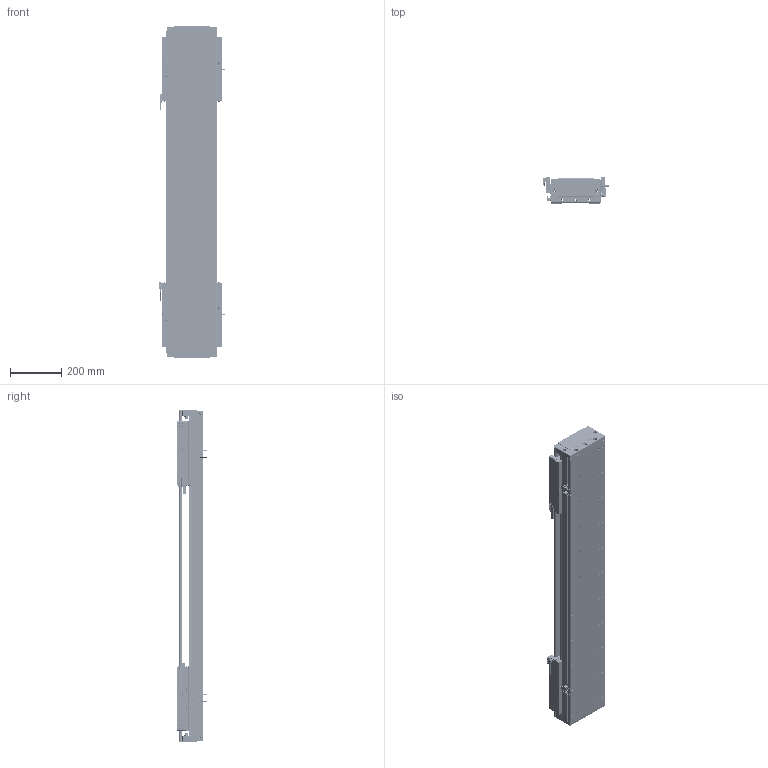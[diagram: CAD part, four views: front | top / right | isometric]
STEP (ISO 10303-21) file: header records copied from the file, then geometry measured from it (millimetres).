
FILE_DESCRIPTION (( 'STEP AP203' ), '1' );
FILE_NAME ('DA-C195-2-C3-T680-C010-0.2 眻盄萇儂.STEP', '2025-08-14T02:25:24', ( '' ), ( '' ), 'SwSTEP 2.0', 'SolidWorks 2019', '' );
FILE_SCHEMA (( 'CONFIG_CONTROL_DESIGN' ));
Length unit declared in the file: millimetre
Products named in the file (16): DKW-GYP-ZJ-00 笢潔嫖萇覜茼え; DA165-GYP-00 光电感应片(默认); CU195-C3賑輸-俋楷; 66156-0001-003-00 裔啣; DA-C195-2-C3-T680-C010-0.2 眻盄萇儂; DKW168-HXJ-ZJ-00 笢潔滅袉砎蝶; PM-Y65嫖萇羲壽郪璃; 葩璃 DA95-GT-T-00; PM-T45ㄗ侂狟ㄘ; MS200 棠掑喜S315-T240; DKW-KGZ-ZJ-00 中间光电开关支架; DA95-HXJ-00 遣喳砎蝶; IU-CU195-L-00 菁釱(L1260); LMT黍杅芛; DA195-DG-H-00  端盖（压铸镂空版）; IU-CU195-L 菁釱絳寢
Assembly tree (28 placements, depth 3):
  DA-C195-2-C3-T680-C010-0.2 眻盄萇儂
    IU-CU195-L 菁釱絳寢
      IU-CU195-L-00 菁釱(L1260)
      葩璃 DA95-GT-T-00  x4
    LMT黍杅芛  x2
    MS200 棠掑喜S315-T240
    PM-T45ㄗ侂狟ㄘ  x4
    DA165-GYP-00 光电感应片(默认)  x2
    DA195-DG-H-00  端盖（压铸镂空版）  x2
    DA95-HXJ-00 遣喳砎蝶  x4
    PM-Y65嫖萇羲壽郪璃
    66156-0001-003-00 裔啣
    DKW168-HXJ-ZJ-00 笢潔滅袉砎蝶
    DKW-GYP-ZJ-00 笢潔嫖萇覜茼え
    DKW-KGZ-ZJ-00 中间光电开关支架
    CU195-C3賑輸-俋楷  x2
Bounding box: 258.2 x 115.6 x 1300 mm (x, y, z)
Volume: 10965996.1 mm3; surface area: 3002335.4 mm2
Topology: 146 solids, 218 shells, 7812 faces, 19816 edges, 12071 vertices
Faces by surface type: cylinder 3240, plane 2788, cone 914, bspline 718, torus 80, sphere 72
Entity records: 157437 total; most frequent: CARTESIAN_POINT 48302, ORIENTED_EDGE 22818, DIRECTION 21656, EDGE_CURVE 11409, AXIS2_PLACEMENT_3D 7899, VERTEX_POINT 7224, LINE 5858, VECTOR 5858
